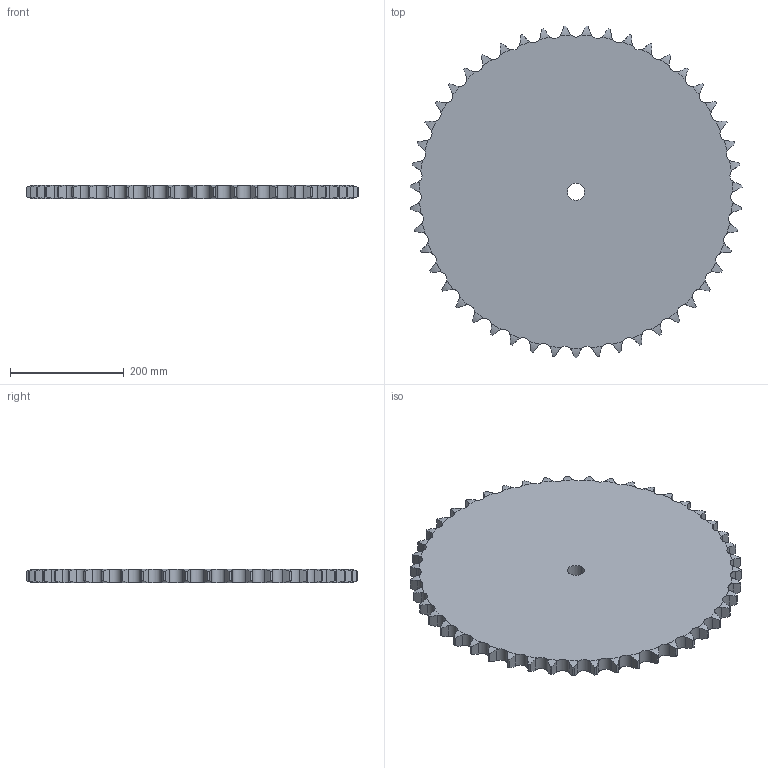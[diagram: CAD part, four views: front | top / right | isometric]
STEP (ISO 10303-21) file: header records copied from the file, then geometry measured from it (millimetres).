
FILE_DESCRIPTION((''),'2;1');
FILE_NAME('500-701-0047_PRT','2021-02-12T',('Brieden'),('Brieden'),'PRO/ENGINEER BY PARAMETRIC TECHNOLOGY CORPORATION, 2010160','PRO/ENGINEER BY PARAMETRIC TECHNOLOGY CORPORATION, 2010160','');
FILE_SCHEMA(('AUTOMOTIVE_DESIGN { 1 0 10303 214 1 1 1 1 }'));
Length unit declared in the file: millimetre
Products named in the file (1): 500-701-0047_PRT
Bounding box: 584.2 x 583.87 x 24.1 mm (x, y, z)
Volume: 5885936.5 mm3; surface area: 553934.9 mm2
Topology: 1 solids, 1 shells, 286 faces, 852 edges, 568 vertices
Faces by surface type: cylinder 190, torus 94, plane 2
Entity records: 14596 total; most frequent: CARTESIAN_POINT 4745, ORIENTED_EDGE 1704, DIRECTION 1334, PRESENTATION_STYLE_ASSIGNMENT 853, STYLED_ITEM 853, CURVE_STYLE 852, EDGE_CURVE 852, AXIS2_PLACEMENT_3D 572
